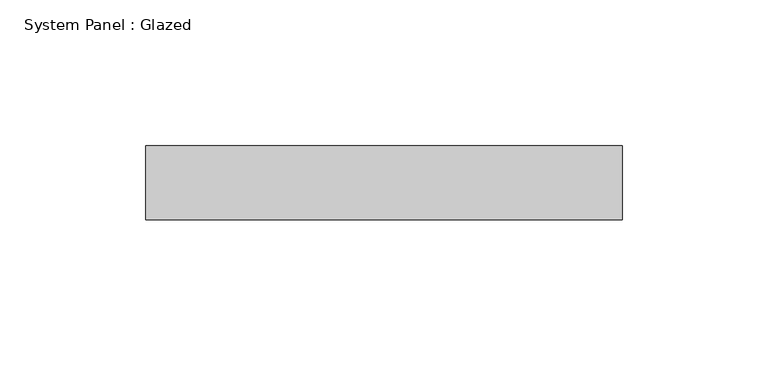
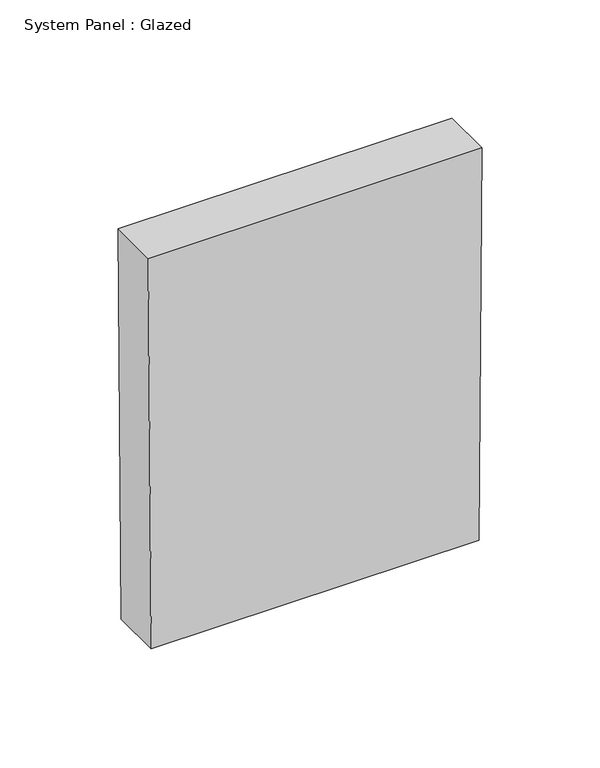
"""IFC4 building model written with IfcOpenShell, lengths in millimetres: plate geometry, System Panel : Glazed."""

from ifc_helpers import new_model, si_unit, frame, origin, place, context, project, spatial, polyline, outline, extrude, source, transform, mapped, element, save


def system_panel_glazed_73e5d392(model_context):
    return source(origin(), model_context, "Body", "SweptSolid", [
        extrude(outline(polyline([(0.0, -80.3086243), (0.0, 80.3086243), (202.3987166, 81.7823943), (202.3987166, -81.7823943), (0.0, -80.3086243)])), frame((0.0, 19.05, 0.0), z_axis=(0.0, 1.0, 0.0), x_axis=(0.0, 0.0, 1.0)), (0.0, 0.0, 1.0), 25.4),
    ])


if __name__ == "__main__":
    model = new_model("IFC4")
    model_context = context("Model", 3, world=origin())
    ifc_project = project(units=[si_unit("LENGTHUNIT", "METRE", prefix="MILLI")], contexts=[model_context])
    site = spatial("IfcSite", under=ifc_project)
    building = spatial("IfcBuilding", under=site)
    placement = place(None, origin())
    system_panel_glazed_shape = system_panel_glazed_73e5d392(model_context)
    element("IfcPlate", 1, ObjectType="System Panel : Glazed", at=placement, inside=building, context=model_context, shape_type="MappedRepresentation", body=[
        mapped(system_panel_glazed_shape, transform((0.0, 0.0, 0.0), x_axis=(1.0, 0.0, 0.0), y_axis=(0.0, 1.0, 0.0), z_axis=(0.0, 0.0, 1.0))),
    ])
    save(model, "model.ifc")
